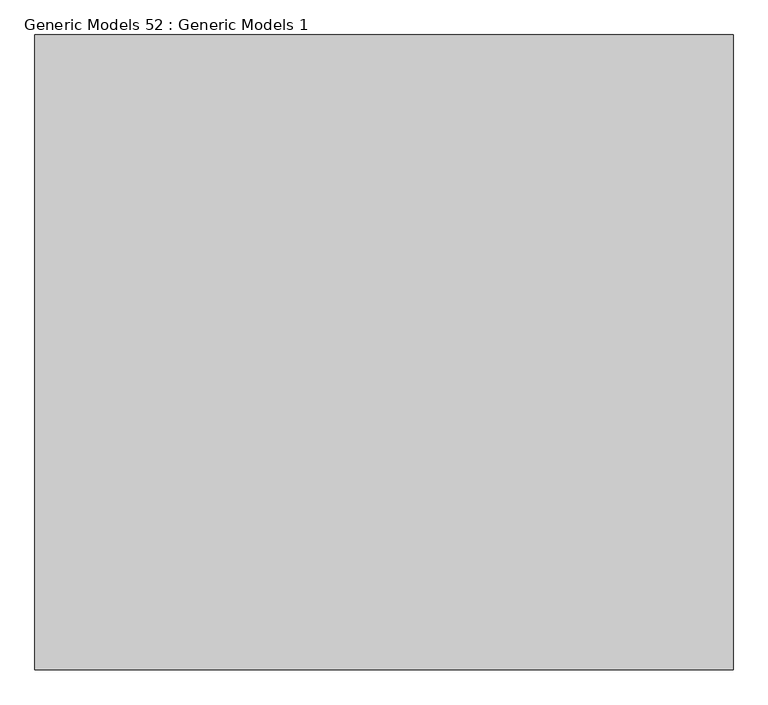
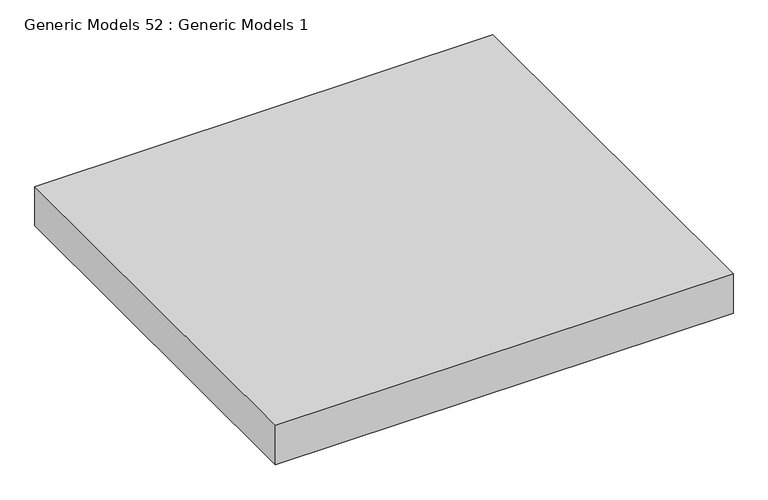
"""IFC4 building model written with IfcOpenShell, lengths in millimetres: proxy geometry, Generic Models 52 : Generic Models 1."""

from ifc_helpers import new_model, si_unit, origin, origin_with_axes, place, context, project, spatial, polyline, outline, extrude, source, transform, mapped, element, save


def generic_models_52_generic_models_1_02ef8fb8(model_context):
    return source(origin(), model_context, "Body", "SweptSolid", [
        extrude(outline(polyline([(3695.1731655, -5024.1855869), (3695.1731655, -4024.1855869), (4795.1731655, -4024.1855869), (4795.1731655, -5024.1855869), (3695.1731655, -5024.1855869)])), origin_with_axes(), (0.0, 0.0, 1.0), 100.0),
    ])


if __name__ == "__main__":
    model = new_model("IFC4")
    model_context = context("Model", 3, world=origin())
    ifc_project = project(units=[si_unit("LENGTHUNIT", "METRE", prefix="MILLI")], contexts=[model_context])
    site = spatial("IfcSite", under=ifc_project)
    building = spatial("IfcBuilding", under=site)
    placement = place(None, origin())
    generic_models_52_generic_models_1_shape = generic_models_52_generic_models_1_02ef8fb8(model_context)
    element("IfcBuildingElementProxy", 1, Name="Generic Models 52 : Generic Models 1", ObjectType="Generic Models 52 : Generic Models 1", at=placement, inside=building, context=model_context, shape_type="MappedRepresentation", body=[
        mapped(generic_models_52_generic_models_1_shape, transform((0.0, 0.0, 0.0), x_axis=(1.0, 0.0, 0.0), y_axis=(0.0, 1.0, 0.0), z_axis=(0.0, 0.0, 1.0))),
    ])
    save(model, "model.ifc")
